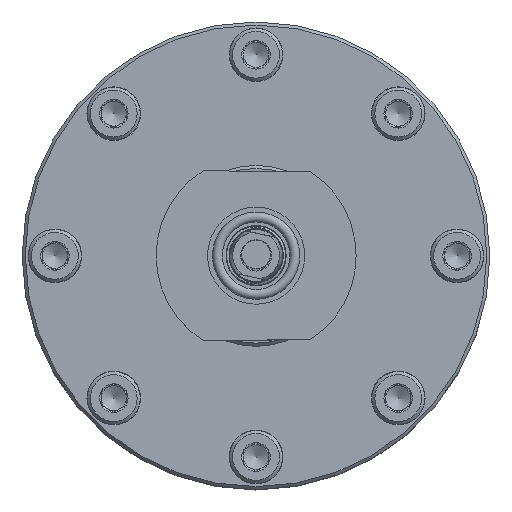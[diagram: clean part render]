
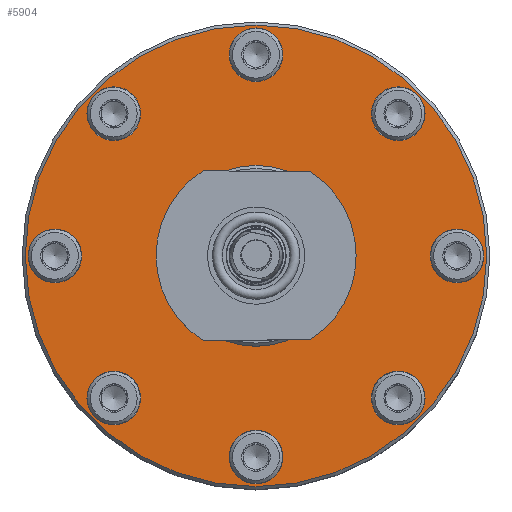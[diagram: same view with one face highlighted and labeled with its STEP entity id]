
A CAD part, top view. The second image highlights one B-rep face of the part: STEP entity #5904.
In plain terms, the highlighted planar face has unit normal (0, 0, 1).
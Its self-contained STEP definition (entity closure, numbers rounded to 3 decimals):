
#1092=FACE_BOUND('',#1837,.T.);
#1093=FACE_BOUND('',#1838,.T.);
#1094=FACE_BOUND('',#1839,.T.);
#1095=FACE_BOUND('',#1840,.T.);
#1096=FACE_BOUND('',#1841,.T.);
#1097=FACE_BOUND('',#1842,.T.);
#1098=FACE_BOUND('',#1843,.T.);
#1099=FACE_BOUND('',#1844,.T.);
#1100=FACE_BOUND('',#1845,.T.);
#1196=PLANE('',#6500);
#1460=FACE_OUTER_BOUND('',#1836,.T.);
#1836=EDGE_LOOP('',(#4841));
#1837=EDGE_LOOP('',(#4842,#4843));
#1838=EDGE_LOOP('',(#4844,#4845));
#1839=EDGE_LOOP('',(#4846,#4847));
#1840=EDGE_LOOP('',(#4848,#4849));
#1841=EDGE_LOOP('',(#4850,#4851));
#1842=EDGE_LOOP('',(#4852,#4853));
#1843=EDGE_LOOP('',(#4854,#4855));
#1844=EDGE_LOOP('',(#4856,#4857));
#1845=EDGE_LOOP('',(#4858,#4859));
#2211=CIRCLE('',#6442,4.3);
#2212=CIRCLE('',#6443,4.3);
#2215=CIRCLE('',#6448,4.3);
#2216=CIRCLE('',#6449,4.3);
#2221=CIRCLE('',#6456,4.3);
#2222=CIRCLE('',#6457,4.3);
#2225=CIRCLE('',#6462,4.3);
#2226=CIRCLE('',#6463,4.3);
#2231=CIRCLE('',#6470,4.3);
#2232=CIRCLE('',#6471,4.3);
#2237=CIRCLE('',#6478,4.3);
#2238=CIRCLE('',#6479,4.3);
#2241=CIRCLE('',#6484,4.3);
#2242=CIRCLE('',#6485,4.3);
#2245=CIRCLE('',#6490,4.3);
#2246=CIRCLE('',#6491,4.3);
#2250=CIRCLE('',#6497,14.5);
#2251=CIRCLE('',#6498,14.5);
#2252=CIRCLE('',#6501,37.);
#2726=VERTEX_POINT('',#11778);
#2727=VERTEX_POINT('',#11779);
#2730=VERTEX_POINT('',#11789);
#2731=VERTEX_POINT('',#11790);
#2736=VERTEX_POINT('',#11804);
#2737=VERTEX_POINT('',#11805);
#2740=VERTEX_POINT('',#11815);
#2741=VERTEX_POINT('',#11816);
#2746=VERTEX_POINT('',#11830);
#2747=VERTEX_POINT('',#11831);
#2752=VERTEX_POINT('',#11845);
#2753=VERTEX_POINT('',#11846);
#2756=VERTEX_POINT('',#11856);
#2757=VERTEX_POINT('',#11857);
#2760=VERTEX_POINT('',#11867);
#2761=VERTEX_POINT('',#11868);
#2765=VERTEX_POINT('',#11880);
#2766=VERTEX_POINT('',#11882);
#2767=VERTEX_POINT('',#11888);
#3466=EDGE_CURVE('',#2726,#2727,#2211,.T.);
#3467=EDGE_CURVE('',#2727,#2726,#2212,.T.);
#3471=EDGE_CURVE('',#2730,#2731,#2215,.T.);
#3472=EDGE_CURVE('',#2731,#2730,#2216,.T.);
#3478=EDGE_CURVE('',#2736,#2737,#2221,.T.);
#3479=EDGE_CURVE('',#2737,#2736,#2222,.T.);
#3483=EDGE_CURVE('',#2740,#2741,#2225,.T.);
#3484=EDGE_CURVE('',#2741,#2740,#2226,.T.);
#3490=EDGE_CURVE('',#2746,#2747,#2231,.T.);
#3491=EDGE_CURVE('',#2747,#2746,#2232,.T.);
#3497=EDGE_CURVE('',#2752,#2753,#2237,.T.);
#3498=EDGE_CURVE('',#2753,#2752,#2238,.T.);
#3502=EDGE_CURVE('',#2756,#2757,#2241,.T.);
#3503=EDGE_CURVE('',#2757,#2756,#2242,.T.);
#3507=EDGE_CURVE('',#2760,#2761,#2245,.T.);
#3508=EDGE_CURVE('',#2761,#2760,#2246,.T.);
#3514=EDGE_CURVE('',#2765,#2766,#2250,.T.);
#3515=EDGE_CURVE('',#2766,#2765,#2251,.T.);
#3517=EDGE_CURVE('',#2767,#2767,#2252,.T.);
#4841=ORIENTED_EDGE('',*,*,#3517,.F.);
#4842=ORIENTED_EDGE('',*,*,#3515,.F.);
#4843=ORIENTED_EDGE('',*,*,#3514,.F.);
#4844=ORIENTED_EDGE('',*,*,#3466,.T.);
#4845=ORIENTED_EDGE('',*,*,#3467,.T.);
#4846=ORIENTED_EDGE('',*,*,#3471,.T.);
#4847=ORIENTED_EDGE('',*,*,#3472,.T.);
#4848=ORIENTED_EDGE('',*,*,#3478,.T.);
#4849=ORIENTED_EDGE('',*,*,#3479,.T.);
#4850=ORIENTED_EDGE('',*,*,#3483,.T.);
#4851=ORIENTED_EDGE('',*,*,#3484,.T.);
#4852=ORIENTED_EDGE('',*,*,#3490,.T.);
#4853=ORIENTED_EDGE('',*,*,#3491,.T.);
#4854=ORIENTED_EDGE('',*,*,#3497,.T.);
#4855=ORIENTED_EDGE('',*,*,#3498,.T.);
#4856=ORIENTED_EDGE('',*,*,#3502,.T.);
#4857=ORIENTED_EDGE('',*,*,#3503,.T.);
#4858=ORIENTED_EDGE('',*,*,#3507,.T.);
#4859=ORIENTED_EDGE('',*,*,#3508,.T.);
#5904=ADVANCED_FACE('',(#1460,#1092,#1093,#1094,#1095,#1096,#1097,#1098,
#1099,#1100),#1196,.T.);
#6442=AXIS2_PLACEMENT_3D('',#11780,#7715,#7716);
#6443=AXIS2_PLACEMENT_3D('',#11781,#7717,#7718);
#6448=AXIS2_PLACEMENT_3D('',#11791,#7728,#7729);
#6449=AXIS2_PLACEMENT_3D('',#11792,#7730,#7731);
#6456=AXIS2_PLACEMENT_3D('',#11806,#7745,#7746);
#6457=AXIS2_PLACEMENT_3D('',#11807,#7747,#7748);
#6462=AXIS2_PLACEMENT_3D('',#11817,#7758,#7759);
#6463=AXIS2_PLACEMENT_3D('',#11818,#7760,#7761);
#6470=AXIS2_PLACEMENT_3D('',#11832,#7775,#7776);
#6471=AXIS2_PLACEMENT_3D('',#11833,#7777,#7778);
#6478=AXIS2_PLACEMENT_3D('',#11847,#7792,#7793);
#6479=AXIS2_PLACEMENT_3D('',#11848,#7794,#7795);
#6484=AXIS2_PLACEMENT_3D('',#11858,#7805,#7806);
#6485=AXIS2_PLACEMENT_3D('',#11859,#7807,#7808);
#6490=AXIS2_PLACEMENT_3D('',#11869,#7818,#7819);
#6491=AXIS2_PLACEMENT_3D('',#11870,#7820,#7821);
#6497=AXIS2_PLACEMENT_3D('',#11883,#7834,#7835);
#6498=AXIS2_PLACEMENT_3D('',#11884,#7836,#7837);
#6500=AXIS2_PLACEMENT_3D('',#11887,#7841,#7842);
#6501=AXIS2_PLACEMENT_3D('',#11889,#7843,#7844);
#7715=DIRECTION('center_axis',(0.,0.,-1.));
#7716=DIRECTION('ref_axis',(1.,0.,0.));
#7717=DIRECTION('center_axis',(0.,0.,-1.));
#7718=DIRECTION('ref_axis',(1.,0.,0.));
#7728=DIRECTION('center_axis',(0.,0.,-1.));
#7729=DIRECTION('ref_axis',(1.,0.,0.));
#7730=DIRECTION('center_axis',(0.,0.,-1.));
#7731=DIRECTION('ref_axis',(1.,0.,0.));
#7745=DIRECTION('center_axis',(0.,0.,-1.));
#7746=DIRECTION('ref_axis',(1.,0.,0.));
#7747=DIRECTION('center_axis',(0.,0.,-1.));
#7748=DIRECTION('ref_axis',(1.,0.,0.));
#7758=DIRECTION('center_axis',(0.,0.,-1.));
#7759=DIRECTION('ref_axis',(1.,0.,0.));
#7760=DIRECTION('center_axis',(0.,0.,-1.));
#7761=DIRECTION('ref_axis',(1.,0.,0.));
#7775=DIRECTION('center_axis',(0.,0.,-1.));
#7776=DIRECTION('ref_axis',(1.,0.,0.));
#7777=DIRECTION('center_axis',(0.,0.,-1.));
#7778=DIRECTION('ref_axis',(1.,0.,0.));
#7792=DIRECTION('center_axis',(0.,0.,-1.));
#7793=DIRECTION('ref_axis',(1.,0.,0.));
#7794=DIRECTION('center_axis',(0.,0.,-1.));
#7795=DIRECTION('ref_axis',(1.,0.,0.));
#7805=DIRECTION('center_axis',(0.,0.,-1.));
#7806=DIRECTION('ref_axis',(1.,0.,0.));
#7807=DIRECTION('center_axis',(0.,0.,-1.));
#7808=DIRECTION('ref_axis',(1.,0.,0.));
#7818=DIRECTION('center_axis',(0.,0.,-1.));
#7819=DIRECTION('ref_axis',(1.,0.,0.));
#7820=DIRECTION('center_axis',(0.,0.,-1.));
#7821=DIRECTION('ref_axis',(1.,0.,0.));
#7834=DIRECTION('center_axis',(0.,0.,1.));
#7835=DIRECTION('ref_axis',(1.,0.,0.));
#7836=DIRECTION('center_axis',(0.,0.,1.));
#7837=DIRECTION('ref_axis',(1.,0.,0.));
#7841=DIRECTION('center_axis',(0.,0.,1.));
#7842=DIRECTION('ref_axis',(1.,0.,0.));
#7843=DIRECTION('center_axis',(0.,0.,-1.));
#7844=DIRECTION('ref_axis',(-1.,0.,0.));
#11778=CARTESIAN_POINT('',(36.55,0.,20.));
#11779=CARTESIAN_POINT('',(27.95,0.,20.));
#11780=CARTESIAN_POINT('Origin',(32.25,0.,20.));
#11781=CARTESIAN_POINT('Origin',(32.25,0.,20.));
#11789=CARTESIAN_POINT('',(4.3,32.25,20.));
#11790=CARTESIAN_POINT('',(-4.3,32.25,20.));
#11791=CARTESIAN_POINT('Origin',(0.,32.25,20.));
#11792=CARTESIAN_POINT('Origin',(0.,32.25,20.));
#11804=CARTESIAN_POINT('',(-27.95,0.,20.));
#11805=CARTESIAN_POINT('',(-36.55,0.,20.));
#11806=CARTESIAN_POINT('Origin',(-32.25,0.,20.));
#11807=CARTESIAN_POINT('Origin',(-32.25,0.,20.));
#11815=CARTESIAN_POINT('',(4.3,-32.25,20.));
#11816=CARTESIAN_POINT('',(-4.3,-32.25,20.));
#11817=CARTESIAN_POINT('Origin',(0.,-32.25,20.));
#11818=CARTESIAN_POINT('Origin',(0.,-32.25,20.));
#11830=CARTESIAN_POINT('',(27.104,-22.804,20.));
#11831=CARTESIAN_POINT('',(18.504,-22.804,20.));
#11832=CARTESIAN_POINT('Origin',(22.804,-22.804,20.));
#11833=CARTESIAN_POINT('Origin',(22.804,-22.804,20.));
#11845=CARTESIAN_POINT('',(-18.504,-22.804,20.));
#11846=CARTESIAN_POINT('',(-27.104,-22.804,20.));
#11847=CARTESIAN_POINT('Origin',(-22.804,-22.804,20.));
#11848=CARTESIAN_POINT('Origin',(-22.804,-22.804,20.));
#11856=CARTESIAN_POINT('',(-18.504,22.804,20.));
#11857=CARTESIAN_POINT('',(-27.104,22.804,20.));
#11858=CARTESIAN_POINT('Origin',(-22.804,22.804,20.));
#11859=CARTESIAN_POINT('Origin',(-22.804,22.804,20.));
#11867=CARTESIAN_POINT('',(27.104,22.804,20.));
#11868=CARTESIAN_POINT('',(18.504,22.804,20.));
#11869=CARTESIAN_POINT('Origin',(22.804,22.804,20.));
#11870=CARTESIAN_POINT('Origin',(22.804,22.804,20.));
#11880=CARTESIAN_POINT('',(-14.5,0.,20.));
#11882=CARTESIAN_POINT('',(14.5,0.,20.));
#11883=CARTESIAN_POINT('Origin',(0.,0.,20.));
#11884=CARTESIAN_POINT('Origin',(0.,0.,20.));
#11887=CARTESIAN_POINT('Origin',(14.5,0.,20.));
#11888=CARTESIAN_POINT('',(37.,0.,20.));
#11889=CARTESIAN_POINT('Origin',(0.,0.,20.));
